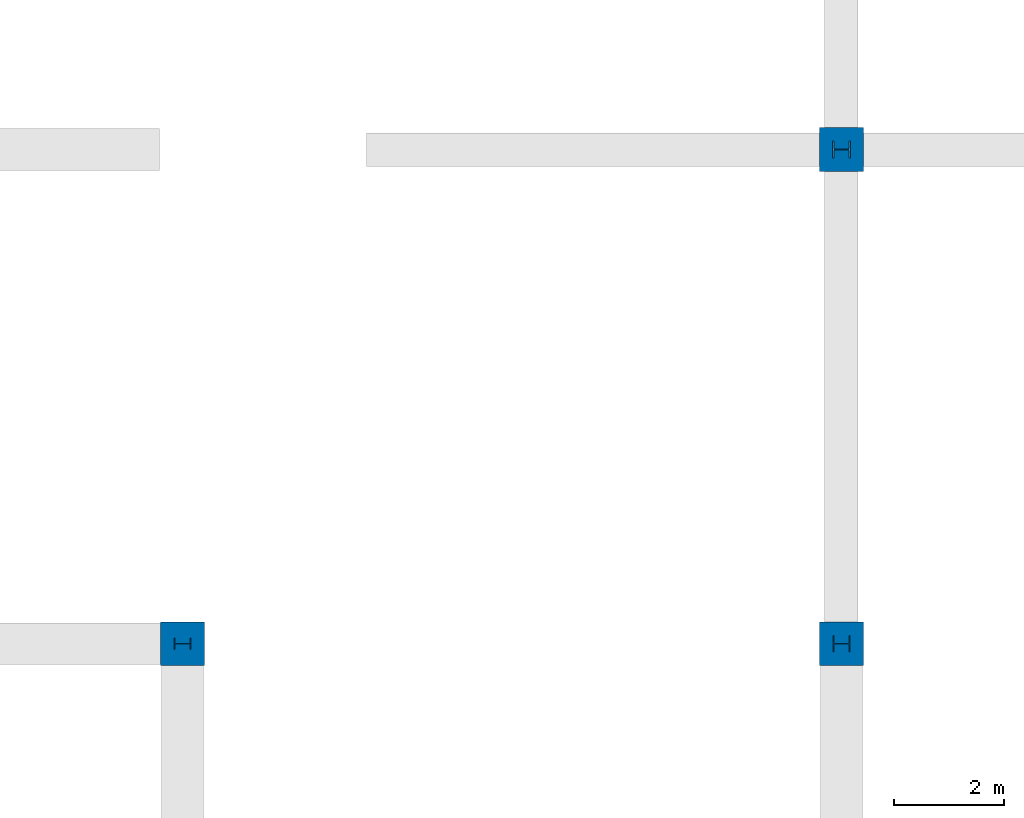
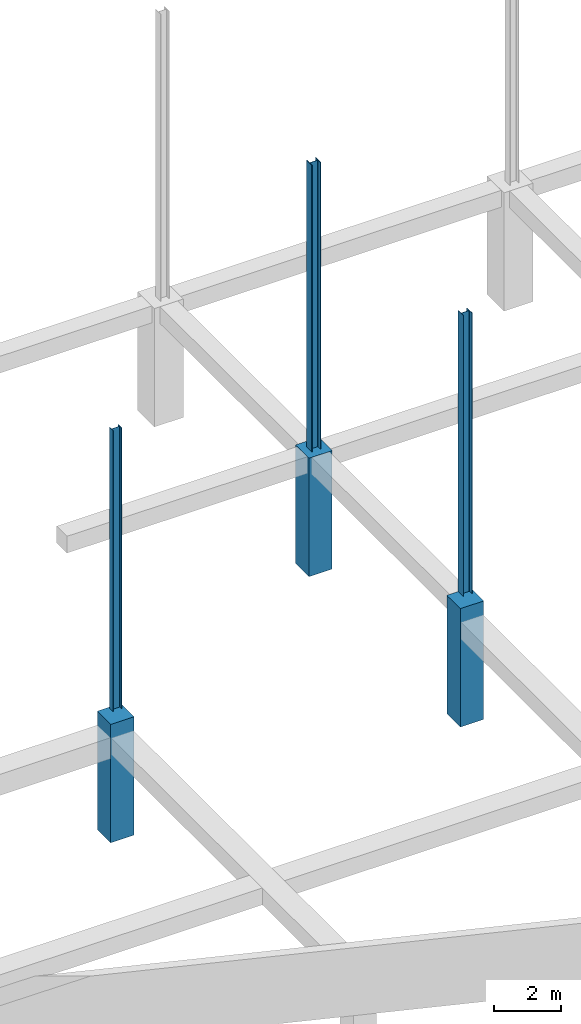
# One storey, part 2 of 19: 6 columns.
"""IFC2X3 building model written with IfcOpenShell, lengths in millimetres."""

from ifc_helpers import new_model, si_unit, origin, place, context, project, spatial, faceted_brep, material, element, save


model = new_model("IFC2X3")

# Units and contexts
context_of_model = context(None, 3, precision=1e-05, world=origin())
ifc_project = project(units=[si_unit("LENGTHUNIT", "METRE", prefix="MILLI")], contexts=[context_of_model])

# Building, storey
building = spatial("IfcBuilding", under=ifc_project, Name="Building", CompositionType="ELEMENT")
storey = spatial("IfcBuildingStorey", under=building, Name="FL2-FRM", CompositionType="ELEMENT")

# Columns
ifc_material_1 = material(Name="A992")
column_1_placement = place(None, origin())
element("IfcColumn", 1, at=column_1_placement, inside=storey, material=ifc_material_1, Name="Column274", context=context_of_model, shape_type="Brep", body=[
    faceted_brep([(-47836.5, 26845.0, 4296.8), (-47836.5, 27155.0, 4296.8), (-47836.5, 27155.0, 14694.2), (-47836.5, 26845.0, 14694.2), (-47861.6, 27155.0, 4296.8), (-47861.6, 27155.0, 14694.2), (-47861.6, 27022.9, 4296.8), (-47861.6, 27022.9, 14694.2), (-47862.1, 27019.0, 4296.8), (-47862.1, 27019.0, 14694.2), (-47863.6, 27015.3, 4296.8), (-47863.6, 27015.3, 14694.2), (-47866.1, 27012.2, 4296.8), (-47866.1, 27012.2, 14694.2), (-47869.2, 27009.8, 4296.8), (-47869.2, 27009.8, 14694.2), (-47872.9, 27008.3, 4296.8), (-47872.9, 27008.3, 14694.2), (-47876.8, 27007.8, 4296.8), (-47876.8, 27007.8, 14694.2), (-48123.2, 27007.8, 4296.8), (-48123.2, 27007.8, 14694.2), (-48127.1, 27008.3, 4296.8), (-48127.1, 27008.3, 14694.2), (-48130.8, 27009.8, 4296.8), (-48130.8, 27009.8, 14694.2), (-48133.9, 27012.2, 4296.8), (-48133.9, 27012.2, 14694.2), (-48136.4, 27015.3, 4296.8), (-48136.4, 27015.3, 14694.2), (-48137.9, 27019.0, 4296.8), (-48137.9, 27019.0, 14694.2), (-48138.4, 27022.9, 4296.8), (-48138.4, 27022.9, 14694.2), (-48138.4, 27155.0, 4296.8), (-48138.4, 27155.0, 14694.2), (-48163.5, 27155.0, 4296.8), (-48163.5, 27155.0, 14694.2), (-48163.5, 26845.0, 4296.8), (-48163.5, 26845.0, 14694.2), (-48138.4, 26845.0, 4296.8), (-48138.4, 26845.0, 14694.2), (-48138.4, 26977.1, 4296.8), (-48138.4, 26977.1, 14694.2), (-48137.9, 26981.0, 4296.8), (-48137.9, 26981.0, 14694.2), (-48136.4, 26984.7, 4296.8), (-48136.4, 26984.7, 14694.2), (-48133.9, 26987.8, 4296.8), (-48133.9, 26987.8, 14694.2), (-48130.8, 26990.2, 4296.8), (-48130.8, 26990.2, 14694.2), (-48127.1, 26991.7, 4296.8), (-48127.1, 26991.7, 14694.2), (-48123.2, 26992.3, 4296.8), (-48123.2, 26992.3, 14694.2), (-47876.8, 26992.3, 4296.8), (-47876.8, 26992.3, 14694.2), (-47872.9, 26991.7, 4296.8), (-47872.9, 26991.7, 14694.2), (-47869.2, 26990.2, 4296.8), (-47869.2, 26990.2, 14694.2), (-47866.1, 26987.8, 4296.8), (-47866.1, 26987.8, 14694.2), (-47863.6, 26984.7, 4296.8), (-47863.6, 26984.7, 14694.2), (-47862.1, 26981.0, 4296.8), (-47862.1, 26981.0, 14694.2), (-47861.6, 26977.1, 4296.8), (-47861.6, 26977.1, 14694.2), (-47861.6, 26845.0, 4296.8), (-47861.6, 26845.0, 14694.2)], [[[0, 1, 2, 3]], [[1, 4, 5, 2]], [[4, 6, 7, 5]], [[6, 8, 9, 7]], [[8, 10, 11, 9]], [[10, 12, 13, 11]], [[12, 14, 15, 13]], [[14, 16, 17, 15]], [[16, 18, 19, 17]], [[18, 20, 21, 19]], [[20, 22, 23, 21]], [[22, 24, 25, 23]], [[24, 26, 27, 25]], [[26, 28, 29, 27]], [[28, 30, 31, 29]], [[30, 32, 33, 31]], [[32, 34, 35, 33]], [[34, 36, 37, 35]], [[36, 38, 39, 37]], [[38, 40, 41, 39]], [[40, 42, 43, 41]], [[42, 44, 45, 43]], [[44, 46, 47, 45]], [[46, 48, 49, 47]], [[48, 50, 51, 49]], [[50, 52, 53, 51]], [[52, 54, 55, 53]], [[54, 56, 57, 55]], [[56, 58, 59, 57]], [[58, 60, 61, 59]], [[60, 62, 63, 61]], [[62, 64, 65, 63]], [[64, 66, 67, 65]], [[66, 68, 69, 67]], [[68, 70, 71, 69]], [[70, 0, 3, 71]], [[0, 70, 68, 66, 64, 62, 60, 58, 56, 54, 52, 50, 48, 46, 44, 42, 40, 38, 36, 34, 32, 30, 28, 26, 24, 22, 20, 18, 16, 14, 12, 10, 8, 6, 4, 1]], [[3, 2, 5, 7, 9, 11, 13, 15, 17, 19, 21, 23, 25, 27, 29, 31, 33, 35, 37, 39, 41, 43, 45, 47, 49, 51, 53, 55, 57, 59, 61, 63, 65, 67, 69, 71]]]),
])
ifc_material_2 = material(Name="A992")
column_2_placement = place(None, origin())
element("IfcColumn", 2, at=column_2_placement, inside=storey, material=ifc_material_2, Name="Column276", context=context_of_model, shape_type="Brep", body=[
    faceted_brep([(-47846.0, 17847.5, 4500.0), (-47846.0, 18152.5, 4500.0), (-47846.0, 18152.5, 14694.2), (-47846.0, 17847.5, 14694.2), (-47861.4, 18152.5, 4500.0), (-47861.4, 18152.5, 14694.2), (-47861.4, 18020.1, 4500.0), (-47861.4, 18020.1, 14694.2), (-47861.9, 18016.2, 4500.0), (-47861.9, 18016.2, 14694.2), (-47863.4, 18012.5, 4500.0), (-47863.4, 18012.5, 14694.2), (-47865.9, 18009.4, 4500.0), (-47865.9, 18009.4, 14694.2), (-47869.0, 18007.0, 4500.0), (-47869.0, 18007.0, 14694.2), (-47872.7, 18005.5, 4500.0), (-47872.7, 18005.5, 14694.2), (-47876.6, 18004.9, 4500.0), (-47876.6, 18004.9, 14694.2), (-48123.4, 18004.9, 4500.0), (-48123.4, 18004.9, 14694.2), (-48127.3, 18005.5, 4500.0), (-48127.3, 18005.5, 14694.2), (-48131.0, 18007.0, 4500.0), (-48131.0, 18007.0, 14694.2), (-48134.1, 18009.4, 4500.0), (-48134.1, 18009.4, 14694.2), (-48136.6, 18012.5, 4500.0), (-48136.6, 18012.5, 14694.2), (-48138.1, 18016.2, 4500.0), (-48138.1, 18016.2, 14694.2), (-48138.6, 18020.1, 4500.0), (-48138.6, 18020.1, 14694.2), (-48138.6, 18152.5, 4500.0), (-48138.6, 18152.5, 14694.2), (-48154.0, 18152.5, 4500.0), (-48154.0, 18152.5, 14694.2), (-48154.0, 17847.5, 4500.0), (-48154.0, 17847.5, 14694.2), (-48138.6, 17847.5, 4500.0), (-48138.6, 17847.5, 14694.2), (-48138.6, 17979.9, 4500.0), (-48138.6, 17979.9, 14694.2), (-48138.1, 17983.8, 4500.0), (-48138.1, 17983.8, 14694.2), (-48136.6, 17987.5, 4500.0), (-48136.6, 17987.5, 14694.2), (-48134.1, 17990.6, 4500.0), (-48134.1, 17990.6, 14694.2), (-48131.0, 17993.0, 4500.0), (-48131.0, 17993.0, 14694.2), (-48127.3, 17994.5, 4500.0), (-48127.3, 17994.5, 14694.2), (-48123.4, 17995.1, 4500.0), (-48123.4, 17995.1, 14694.2), (-47876.6, 17995.1, 4500.0), (-47876.6, 17995.1, 14694.2), (-47872.7, 17994.5, 4500.0), (-47872.7, 17994.5, 14694.2), (-47869.0, 17993.0, 4500.0), (-47869.0, 17993.0, 14694.2), (-47865.9, 17990.6, 4500.0), (-47865.9, 17990.6, 14694.2), (-47863.4, 17987.5, 4500.0), (-47863.4, 17987.5, 14694.2), (-47861.9, 17983.8, 4500.0), (-47861.9, 17983.8, 14694.2), (-47861.4, 17979.9, 4500.0), (-47861.4, 17979.9, 14694.2), (-47861.4, 17847.5, 4500.0), (-47861.4, 17847.5, 14694.2)], [[[0, 1, 2, 3]], [[1, 4, 5, 2]], [[4, 6, 7, 5]], [[6, 8, 9, 7]], [[8, 10, 11, 9]], [[10, 12, 13, 11]], [[12, 14, 15, 13]], [[14, 16, 17, 15]], [[16, 18, 19, 17]], [[18, 20, 21, 19]], [[20, 22, 23, 21]], [[22, 24, 25, 23]], [[24, 26, 27, 25]], [[26, 28, 29, 27]], [[28, 30, 31, 29]], [[30, 32, 33, 31]], [[32, 34, 35, 33]], [[34, 36, 37, 35]], [[36, 38, 39, 37]], [[38, 40, 41, 39]], [[40, 42, 43, 41]], [[42, 44, 45, 43]], [[44, 46, 47, 45]], [[46, 48, 49, 47]], [[48, 50, 51, 49]], [[50, 52, 53, 51]], [[52, 54, 55, 53]], [[54, 56, 57, 55]], [[56, 58, 59, 57]], [[58, 60, 61, 59]], [[60, 62, 63, 61]], [[62, 64, 65, 63]], [[64, 66, 67, 65]], [[66, 68, 69, 67]], [[68, 70, 71, 69]], [[70, 0, 3, 71]], [[0, 70, 68, 66, 64, 62, 60, 58, 56, 54, 52, 50, 48, 46, 44, 42, 40, 38, 36, 34, 32, 30, 28, 26, 24, 22, 20, 18, 16, 14, 12, 10, 8, 6, 4, 1]], [[3, 2, 5, 7, 9, 11, 13, 15, 17, 19, 21, 23, 25, 27, 29, 31, 33, 35, 37, 39, 41, 43, 45, 47, 49, 51, 53, 55, 57, 59, 61, 63, 65, 67, 69, 71]]]),
])
ifc_material_3 = material(Name="A992")
column_3_placement = place(None, origin())
element("IfcColumn", 3, at=column_3_placement, inside=storey, material=ifc_material_3, Name="Column298", context=context_of_model, shape_type="Brep", body=[
    faceted_brep([(-59848.5, 17898.5, 4500.0), (-59848.5, 18101.5, 4500.0), (-59848.5, 18101.5, 14694.2), (-59848.5, 17898.5, 14694.2), (-59861.6, 18101.5, 4500.0), (-59861.6, 18101.5, 14694.2), (-59861.6, 18016.4, 4500.0), (-59861.6, 18016.4, 14694.2), (-59862.0, 18013.2, 4500.0), (-59862.0, 18013.2, 14694.2), (-59863.3, 18010.1, 4500.0), (-59863.3, 18010.1, 14694.2), (-59865.3, 18007.5, 4500.0), (-59865.3, 18007.5, 14694.2), (-59868.0, 18005.5, 4500.0), (-59868.0, 18005.5, 14694.2), (-59871.0, 18004.2, 4500.0), (-59871.0, 18004.2, 14694.2), (-59874.3, 18003.8, 4500.0), (-59874.3, 18003.8, 14694.2), (-60125.7, 18003.8, 4500.0), (-60125.7, 18003.8, 14694.2), (-60129.0, 18004.2, 4500.0), (-60129.0, 18004.2, 14694.2), (-60132.0, 18005.5, 4500.0), (-60132.0, 18005.5, 14694.2), (-60134.7, 18007.5, 4500.0), (-60134.7, 18007.5, 14694.2), (-60136.7, 18010.1, 4500.0), (-60136.7, 18010.1, 14694.2), (-60138.0, 18013.2, 4500.0), (-60138.0, 18013.2, 14694.2), (-60138.4, 18016.4, 4500.0), (-60138.4, 18016.4, 14694.2), (-60138.4, 18101.5, 4500.0), (-60138.4, 18101.5, 14694.2), (-60151.5, 18101.5, 4500.0), (-60151.5, 18101.5, 14694.2), (-60151.5, 17898.5, 4500.0), (-60151.5, 17898.5, 14694.2), (-60138.4, 17898.5, 4500.0), (-60138.4, 17898.5, 14694.2), (-60138.4, 17983.6, 4500.0), (-60138.4, 17983.6, 14694.2), (-60138.0, 17986.8, 4500.0), (-60138.0, 17986.8, 14694.2), (-60136.7, 17989.9, 4500.0), (-60136.7, 17989.9, 14694.2), (-60134.7, 17992.5, 4500.0), (-60134.7, 17992.5, 14694.2), (-60132.0, 17994.5, 4500.0), (-60132.0, 17994.5, 14694.2), (-60129.0, 17995.8, 4500.0), (-60129.0, 17995.8, 14694.2), (-60125.7, 17996.3, 4500.0), (-60125.7, 17996.3, 14694.2), (-59874.3, 17996.3, 4500.0), (-59874.3, 17996.3, 14694.2), (-59871.0, 17995.8, 4500.0), (-59871.0, 17995.8, 14694.2), (-59868.0, 17994.5, 4500.0), (-59868.0, 17994.5, 14694.2), (-59865.3, 17992.5, 4500.0), (-59865.3, 17992.5, 14694.2), (-59863.3, 17989.9, 4500.0), (-59863.3, 17989.9, 14694.2), (-59862.0, 17986.8, 4500.0), (-59862.0, 17986.8, 14694.2), (-59861.6, 17983.6, 4500.0), (-59861.6, 17983.6, 14694.2), (-59861.6, 17898.5, 4500.0), (-59861.6, 17898.5, 14694.2)], [[[0, 1, 2, 3]], [[1, 4, 5, 2]], [[4, 6, 7, 5]], [[6, 8, 9, 7]], [[8, 10, 11, 9]], [[10, 12, 13, 11]], [[12, 14, 15, 13]], [[14, 16, 17, 15]], [[16, 18, 19, 17]], [[18, 20, 21, 19]], [[20, 22, 23, 21]], [[22, 24, 25, 23]], [[24, 26, 27, 25]], [[26, 28, 29, 27]], [[28, 30, 31, 29]], [[30, 32, 33, 31]], [[32, 34, 35, 33]], [[34, 36, 37, 35]], [[36, 38, 39, 37]], [[38, 40, 41, 39]], [[40, 42, 43, 41]], [[42, 44, 45, 43]], [[44, 46, 47, 45]], [[46, 48, 49, 47]], [[48, 50, 51, 49]], [[50, 52, 53, 51]], [[52, 54, 55, 53]], [[54, 56, 57, 55]], [[56, 58, 59, 57]], [[58, 60, 61, 59]], [[60, 62, 63, 61]], [[62, 64, 65, 63]], [[64, 66, 67, 65]], [[66, 68, 69, 67]], [[68, 70, 71, 69]], [[70, 0, 3, 71]], [[0, 70, 68, 66, 64, 62, 60, 58, 56, 54, 52, 50, 48, 46, 44, 42, 40, 38, 36, 34, 32, 30, 28, 26, 24, 22, 20, 18, 16, 14, 12, 10, 8, 6, 4, 1]], [[3, 2, 5, 7, 9, 11, 13, 15, 17, 19, 21, 23, 25, 27, 29, 31, 33, 35, 37, 39, 41, 43, 45, 47, 49, 51, 53, 55, 57, 59, 61, 63, 65, 67, 69, 71]]]),
])
ifc_material_4 = material(Name="C5000")
column_4_placement = place(None, origin())
element("IfcColumn", 4, at=column_4_placement, inside=storey, material=ifc_material_4, Name="Column561", context=context_of_model, shape_type="Brep", body=[
    faceted_brep([(-47599.9, 17600.0, 0.0), (-47599.9, 18400.0, 0.0), (-47599.9, 18400.0, 4296.8), (-47599.9, 17600.0, 4296.8), (-48400.1, 18400.0, 0.0), (-48400.1, 18400.0, 4296.8), (-48400.1, 17600.0, 0.0), (-48400.1, 17600.0, 4296.8)], [[[0, 1, 2, 3]], [[1, 4, 5, 2]], [[4, 6, 7, 5]], [[6, 0, 3, 7]], [[0, 6, 4, 1]], [[3, 2, 5, 7]]]),
])
ifc_material_5 = material(Name="C5000")
column_5_placement = place(None, origin())
element("IfcColumn", 5, at=column_5_placement, inside=storey, material=ifc_material_5, Name="Column562", context=context_of_model, shape_type="Brep", body=[
    faceted_brep([(-59599.9, 17600.0, 0.0), (-59599.9, 18400.0, 0.0), (-59599.9, 18400.0, 4296.8), (-59599.9, 17600.0, 4296.8), (-60400.1, 18400.0, 0.0), (-60400.1, 18400.0, 4296.8), (-60400.1, 17600.0, 0.0), (-60400.1, 17600.0, 4296.8)], [[[0, 1, 2, 3]], [[1, 4, 5, 2]], [[4, 6, 7, 5]], [[6, 0, 3, 7]], [[0, 6, 4, 1]], [[3, 2, 5, 7]]]),
])
ifc_material_6 = material(Name="C5000")
column_6_placement = place(None, origin())
element("IfcColumn", 6, at=column_6_placement, inside=storey, material=ifc_material_6, Name="Column563", context=context_of_model, shape_type="Brep", body=[
    faceted_brep([(-47599.9, 27400.0, 6.31672e-13), (-48400.0, 27400.0, -6.31672e-13), (-48400.1, 27400.0, 4296.8), (-47599.9, 27400.0, 4296.8), (-48400.0, 26600.0, -6.31672e-13), (-48400.1, 26600.0, 4296.8), (-47599.9, 26600.0, 6.31672e-13), (-47599.9, 26600.0, 4296.8)], [[[0, 1, 2, 3]], [[1, 4, 5, 2]], [[4, 6, 7, 5]], [[6, 0, 3, 7]], [[0, 6, 4, 1]], [[3, 2, 5, 7]]]),
])

save(model, "model.ifc")
